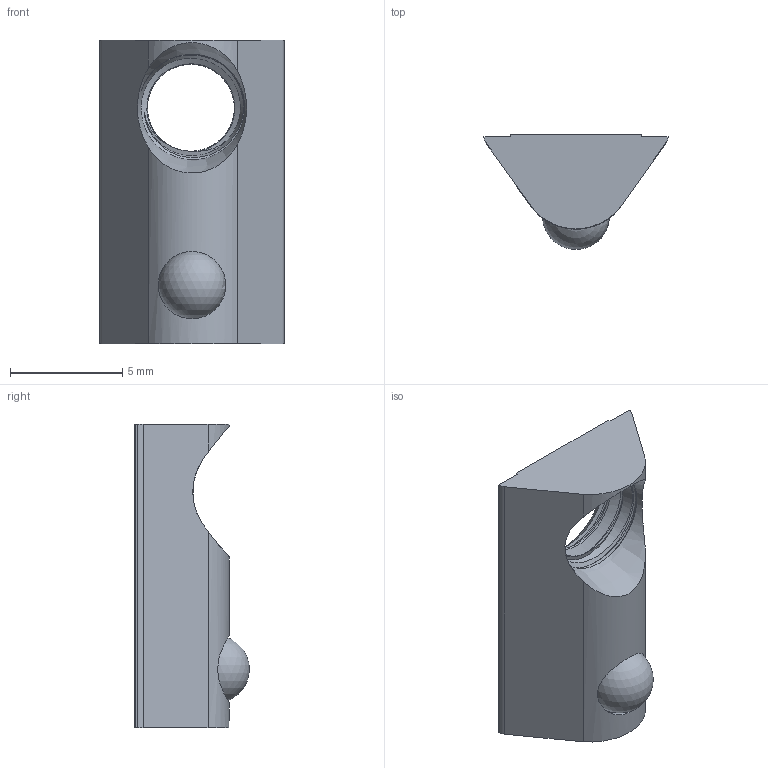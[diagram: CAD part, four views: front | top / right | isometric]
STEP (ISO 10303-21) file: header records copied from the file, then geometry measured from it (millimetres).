
FILE_DESCRIPTION(('FreeCAD Model'),'2;1');
FILE_NAME('Open CASCADE Shape Model','2021-05-04T11:24:07',('Author'),( ''),'Open CASCADE STEP processor 7.5','FreeCAD','Unknown');
FILE_SCHEMA(('AUTOMOTIVE_DESIGN { 1 0 10303 214 1 1 1 1 }'));
Length unit declared in the file: millimetre
Products named in the file (1): S206NSMSB
Bounding box: 8.2 x 5.1 x 13.5 mm (x, y, z)
Volume: 227.9 mm3; surface area: 428.3 mm2
Topology: 3 solids, 3 shells, 38 faces, 298 edges, 852 vertices
Faces by surface type: plane 12, cylinder 11, bspline 10, cone 4, sphere 1
Full cylindrical faces by diameter (mm): 3 x1, 4.8 x2
Entity records: 12759 total; most frequent: CARTESIAN_POINT 9594, DIRECTION 379, B_SPLINE_CURVE_WITH_KNOTS 226, GEOMETRIC_CURVE_SET 199, TRIMMED_CURVE 196, ORIENTED_EDGE 194, PCURVE 194, DEFINITIONAL_REPRESENTATION 194
